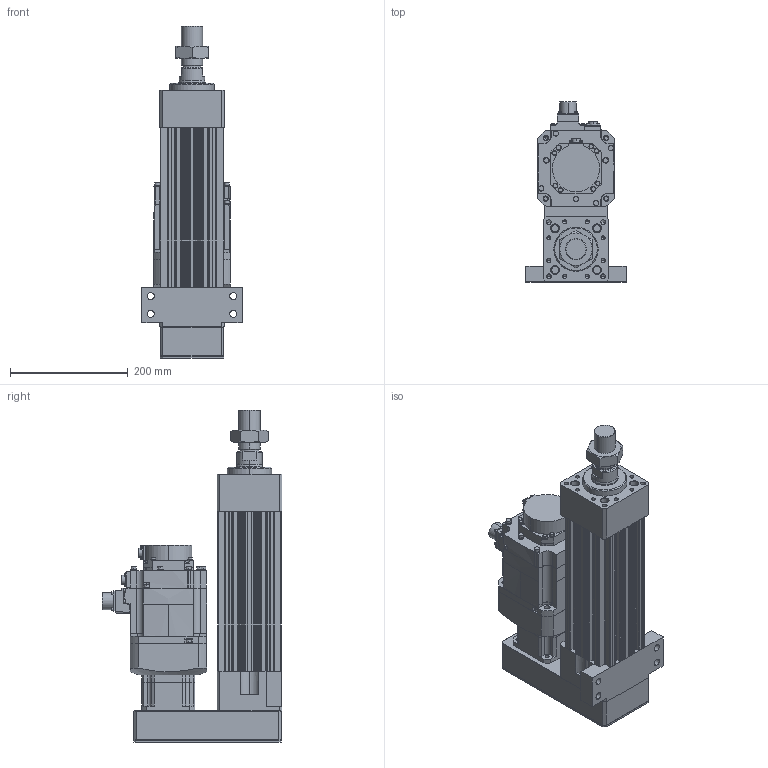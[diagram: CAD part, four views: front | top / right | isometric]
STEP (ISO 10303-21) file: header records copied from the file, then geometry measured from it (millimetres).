
FILE_DESCRIPTION (( 'STEP AP203' ), '1' );
FILE_NAME ('HES110NS(HS)-P100-W010G00-M-FFC.STEP', '2026-06-10T05:53:38', ( 'tms' ), ( '' ), 'SwSTEP 2.0', 'SolidWorks 2013', '' );
FILE_SCHEMA (( 'CONFIG_CONTROL_DESIGN' ));
Length unit declared in the file: millimetre
Products named in the file (8): AB0901; AB0902; HES110NS(HS)-P100-W010G00-M-FFC; M36X1.5P; HES110-FFC-100; HES110-M-ROD-100; HES110-P-G90; HG-SR102B
Assembly tree (7 placements, depth 2):
  HES110NS(HS)-P100-W010G00-M-FFC
    HES110-FFC-100
    HES110-M-ROD-100
    M36X1.5P
    HES110-P-G90
    AB0901
    AB0902
    HG-SR102B
Bounding box: 170 x 304.99 x 563 mm (x, y, z)
Volume: 6427572.2 mm3; surface area: 780410.4 mm2
Topology: 5 solids, 12 shells, 1191 faces, 3016 edges, 1941 vertices
Faces by surface type: cylinder 566, plane 511, cone 100, bspline 10, torus 4
Entity records: 37824 total; most frequent: CARTESIAN_POINT 7444, DIRECTION 6527, ORIENTED_EDGE 5940, EDGE_CURVE 2980, AXIS2_PLACEMENT_3D 2448, VERTEX_POINT 1941, VECTOR 1631, LINE 1631
